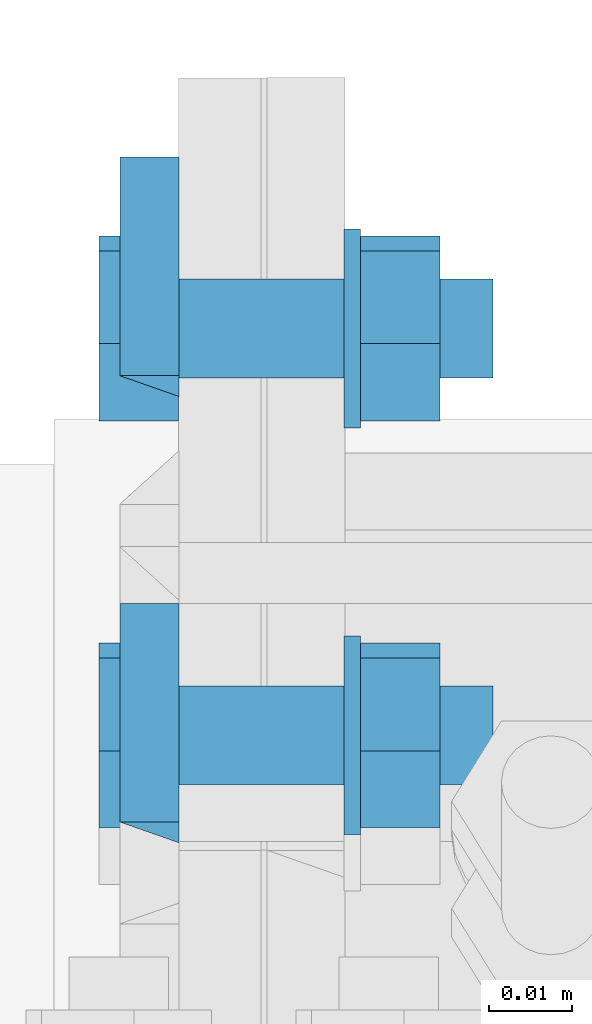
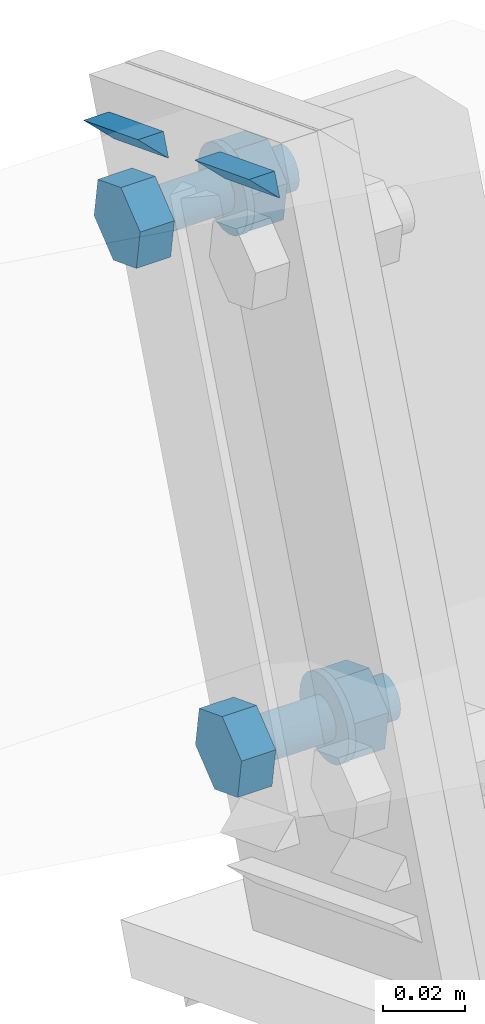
# One storey, part 72 of 72: 8 mechanical fasteners, 4 fasteners.
"""IFC4 building model written with IfcOpenShell, lengths in metres."""

from ifc_helpers import new_model, si_unit, frame, origin_with_axes, place, context, project, spatial, polyline, outline, extrude, type_object, element, save


model = new_model("IFC4")

# Units and contexts
model_context = context("Model", 3, precision=1e-05, world=origin_with_axes())
ifc_project = project(units=[si_unit("LENGTHUNIT", "METRE"), si_unit("AREAUNIT", "SQUARE_METRE"), si_unit("VOLUMEUNIT", "CUBIC_METRE"), si_unit("MASSUNIT", "GRAM", prefix="KILO"), si_unit("TIMEUNIT", "SECOND"), si_unit("PLANEANGLEUNIT", "RADIAN"), si_unit("SOLIDANGLEUNIT", "STERADIAN"), si_unit("THERMODYNAMICTEMPERATUREUNIT", "DEGREE_CELSIUS")], contexts=[model_context])

# Site, building, storey
placement_1 = place(None, origin_with_axes())
site = spatial("IfcSite", under=ifc_project, at=placement_1, Name="Italia", CompositionType="ELEMENT")
building = spatial("IfcBuilding", under=site, at=placement_1, Name="Uffici", CompositionType="ELEMENT")
storey = spatial("IfcBuildingStorey", under=building, at=placement_1, Name="Storey 0", CompositionType="ELEMENT", Elevation=0.0)

# Fasteners
fastener_type_1 = type_object("IfcFastenerType", Name="Collegamento 0210_0209", PredefinedType="WELD")
placement_2 = place(placement_1, origin_with_axes())
fastener_1_placement = place(placement_2, origin_with_axes())
element("IfcFastener", 1, at=fastener_1_placement, inside=storey, type_object=fastener_type_1, Name="Collegamento 0210_0209", context=model_context, shape_type="SweptSolid", body=[
    extrude(outline(polyline([(0.0, 0.0), (-0.00717354, 0.00695801), (0.0, 0.00695801), (0.0, 0.0)])), frame((13.8951, 4.93457, 5.31007), z_axis=(0.0, -0.932385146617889, 0.361466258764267), x_axis=(1.0, 0.0, 0.0)), (0.0, 0.0, 1.0), 0.0283003),
])
fastener_type_2 = type_object("IfcFastenerType", Name="Collegamento 0210_0209", PredefinedType="WELD")
fastener_2_placement = place(placement_2, origin_with_axes())
element("IfcFastener", 2, at=fastener_2_placement, inside=storey, type_object=fastener_type_2, Name="Collegamento 0210_0209", context=model_context, shape_type="SweptSolid", body=[
    extrude(outline(polyline([(0.0, 0.0), (-0.00717354, 0.00695801), (0.0, 0.00695801), (0.0, 0.0)])), frame((13.8951, 4.88068, 5.33097), z_axis=(0.0, -0.932388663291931, 0.361457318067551), x_axis=(1.0, 0.0, 0.0)), (0.0, 0.0, 1.0), 0.0282996),
])
fastener_type_3 = type_object("IfcFastenerType", Name="Collegamento 0210_0209", PredefinedType="WELD")
fastener_3_placement = place(placement_2, origin_with_axes())
element("IfcFastener", 3, at=fastener_3_placement, inside=storey, type_object=fastener_type_3, Name="Collegamento 0210_0209", context=model_context, shape_type="SweptSolid", body=[
    extrude(outline(polyline([(0.0, 0.0), (-0.00717354, 0.00695801), (0.0, 0.00695801), (0.0, 0.0)])), frame((13.8951, 4.93457, 5.31007), z_axis=(0.0, -0.932385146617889, 0.361466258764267), x_axis=(1.0, 0.0, 0.0)), (0.0, 0.0, 1.0), 0.0283003),
])
fastener_type_4 = type_object("IfcFastenerType", Name="Collegamento 0210_0209", PredefinedType="WELD")
fastener_4_placement = place(placement_2, origin_with_axes())
element("IfcFastener", 4, at=fastener_4_placement, inside=storey, type_object=fastener_type_4, Name="Collegamento 0210_0209", context=model_context, shape_type="SweptSolid", body=[
    extrude(outline(polyline([(0.0, 0.0), (-0.00717354, 0.00695801), (0.0, 0.00695801), (0.0, 0.0)])), frame((13.8951, 4.88068, 5.33097), z_axis=(0.0, -0.932388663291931, 0.361457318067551), x_axis=(1.0, 0.0, 0.0)), (0.0, 0.0, 1.0), 0.0282996),
])

# Mechanical fasteners
mechanical_fastener_type_1 = type_object("IfcMechanicalFastenerType", Name="Collegamento 0210_0209", PredefinedType="BOLT")
mechanical_fastener_1_placement = place(placement_2, origin_with_axes())
element("IfcMechanicalFastener", 5, at=mechanical_fastener_1_placement, inside=storey, type_object=mechanical_fastener_type_1, Name="Collegamento 0210_0209", NominalDiameter=0.0119998, context=model_context, shape_type="SweptSolid", body=[
    extrude(outline(polyline([(0.0, 0.0), (-0.0111885, -0.00433731), (-0.0205393, 0.00318336), (-0.0187016, 0.0150418), (-0.00751305, 0.0193791), (0.00183773, 0.0118585), (0.0, 0.0)])), frame((13.895, 4.8579, 5.16499), z_axis=(-1.0, 0.0, 0.0), x_axis=(0.0, -1.0, 0.0)), (0.0, 0.0, 1.0), 0.00959969),
])
mechanical_fastener_type_2 = type_object("IfcMechanicalFastenerType", Name="Collegamento 0210_0209", PredefinedType="BOLT")
mechanical_fastener_2_placement = place(placement_2, origin_with_axes())
element("IfcMechanicalFastener", 6, at=mechanical_fastener_2_placement, inside=storey, type_object=mechanical_fastener_type_2, Name="Collegamento 0210_0209", NominalDiameter=0.012, context=model_context, shape_type="SweptSolid", body=[
    extrude(outline(polyline([(0.0, 0.0), (-0.000204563, -0.00155306), (-0.000803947, -0.00299978), (-0.00175762, -0.00424242), (-0.00300026, -0.00519609), (-0.00444698, -0.00579548), (-0.00600004, -0.00600004), (-0.0075531, -0.00579548), (-0.00899982, -0.00519609), (-0.0102425, -0.00424242), (-0.0111961, -0.00299978), (-0.0117955, -0.00155306), (-0.0120001, 0.0), (-0.0117955, 0.00155306), (-0.0111961, 0.00299978), (-0.0102425, 0.00424242), (-0.00899982, 0.00519609), (-0.0075531, 0.00579548), (-0.00600004, 0.00600004), (-0.00444698, 0.00579548), (-0.00300026, 0.00519609), (-0.00175762, 0.00424242), (-0.000803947, 0.00299978), (-0.000204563, 0.00155306), (0.0, 0.0)])), frame((13.933, 4.86125, 5.17251), z_axis=(-1.0, 0.0, 0.0), x_axis=(0.0, -1.0, 0.0)), (0.0, 0.0, 1.0), 0.0380001),
])
mechanical_fastener_type_3 = type_object("IfcMechanicalFastenerType", Name="Collegamento 0210_0209", PredefinedType="BOLT")
mechanical_fastener_3_placement = place(placement_2, origin_with_axes())
element("IfcMechanicalFastener", 7, at=mechanical_fastener_3_placement, inside=storey, type_object=mechanical_fastener_type_3, Name="Collegamento 0210_0209", NominalDiameter=0.0119998, context=model_context, shape_type="SweptSolid", body=[
    extrude(outline(polyline([(0.0, 0.0), (-0.0111885, -0.00433731), (-0.0205393, 0.00318336), (-0.0187016, 0.0150418), (-0.00751305, 0.0193791), (0.00183773, 0.0118585), (0.0, 0.0)])), frame((13.9266, 4.8579, 5.16499), z_axis=(-1.0, 0.0, 0.0), x_axis=(0.0, -1.0, 0.0)), (0.0, 0.0, 1.0), 0.00959969),
])
mechanical_fastener_type_4 = type_object("IfcMechanicalFastenerType", Name="Collegamento 0210_0209", PredefinedType="BOLT")
mechanical_fastener_4_placement = place(placement_2, origin_with_axes())
element("IfcMechanicalFastener", 8, at=mechanical_fastener_4_placement, inside=storey, type_object=mechanical_fastener_type_4, Name="Collegamento 0210_0209", NominalDiameter=0.024, context=model_context, shape_type="SweptSolid", body=[
    extrude(outline(polyline([(0.0, 0.0), (-0.000409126, -0.00310564), (-0.00160789, -0.00600004), (-0.00351477, -0.00848532), (-0.00600004, -0.0103922), (-0.00889444, -0.011591), (-0.0120001, -0.0120001), (-0.0151057, -0.011591), (-0.0180001, -0.0103922), (-0.0204854, -0.00848532), (-0.0223923, -0.00600004), (-0.023591, -0.00310564), (-0.0240002, 0.0), (-0.023591, 0.00310564), (-0.0223923, 0.00600004), (-0.0204854, 0.00848532), (-0.0180001, 0.0103922), (-0.0151057, 0.011591), (-0.0120001, 0.0120001), (-0.00889444, 0.011591), (-0.00600004, 0.0103922), (-0.00351477, 0.00848532), (-0.00160789, 0.00600004), (-0.000409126, 0.00310564), (0.0, 0.0)])), frame((13.917, 4.85525, 5.17251), z_axis=(-1.0, 0.0, 0.0), x_axis=(0.0, -1.0, 0.0)), (0.0, 0.0, 1.0), 0.00199986),
])
mechanical_fastener_type_5 = type_object("IfcMechanicalFastenerType", Name="Collegamento 0210_0209", PredefinedType="BOLT")
mechanical_fastener_5_placement = place(placement_2, origin_with_axes())
element("IfcMechanicalFastener", 9, at=mechanical_fastener_5_placement, inside=storey, type_object=mechanical_fastener_type_5, Name="Collegamento 0210_0209", NominalDiameter=0.0119998, context=model_context, shape_type="SweptSolid", body=[
    extrude(outline(polyline([(0.0, 0.0), (-0.0111885, -0.00433779), (-0.0205393, 0.00318336), (-0.0187011, 0.0150418), (-0.00751257, 0.0193791), (0.00183821, 0.0118585), (0.0, 0.0)])), frame((13.895, 4.90705, 5.2918), z_axis=(-1.0, 0.0, 0.0), x_axis=(0.0, -1.0, 0.0)), (0.0, 0.0, 1.0), 0.00959969),
])
mechanical_fastener_type_6 = type_object("IfcMechanicalFastenerType", Name="Collegamento 0210_0209", PredefinedType="BOLT")
mechanical_fastener_6_placement = place(placement_2, origin_with_axes())
element("IfcMechanicalFastener", 10, at=mechanical_fastener_6_placement, inside=storey, type_object=mechanical_fastener_type_6, Name="Collegamento 0210_0209", NominalDiameter=0.012, context=model_context, shape_type="SweptSolid", body=[
    extrude(outline(polyline([(0.0, 0.0), (-0.000204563, -0.00155306), (-0.000803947, -0.00299978), (-0.00175762, -0.00424242), (-0.00300026, -0.00519609), (-0.00444698, -0.00579548), (-0.00600004, -0.00600004), (-0.0075531, -0.00579548), (-0.00899982, -0.00519609), (-0.0102425, -0.00424242), (-0.0111961, -0.00299978), (-0.0117955, -0.00155306), (-0.0120001, 0.0), (-0.0117955, 0.00155306), (-0.0111961, 0.00299978), (-0.0102425, 0.00424242), (-0.00899982, 0.00519609), (-0.0075531, 0.00579548), (-0.00600004, 0.00600004), (-0.00444698, 0.00579548), (-0.00300026, 0.00519609), (-0.00175762, 0.00424242), (-0.000803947, 0.00299978), (-0.000204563, 0.00155306), (0.0, 0.0)])), frame((13.933, 4.9104, 5.29932), z_axis=(-1.0, 0.0, 0.0), x_axis=(0.0, -1.0, 0.0)), (0.0, 0.0, 1.0), 0.0380001),
])
mechanical_fastener_type_7 = type_object("IfcMechanicalFastenerType", Name="Collegamento 0210_0209", PredefinedType="BOLT")
mechanical_fastener_7_placement = place(placement_2, origin_with_axes())
element("IfcMechanicalFastener", 11, at=mechanical_fastener_7_placement, inside=storey, type_object=mechanical_fastener_type_7, Name="Collegamento 0210_0209", NominalDiameter=0.0119998, context=model_context, shape_type="SweptSolid", body=[
    extrude(outline(polyline([(0.0, 0.0), (-0.0111885, -0.00433779), (-0.0205393, 0.00318336), (-0.0187011, 0.0150418), (-0.00751257, 0.0193791), (0.00183821, 0.0118585), (0.0, 0.0)])), frame((13.9266, 4.90705, 5.2918), z_axis=(-1.0, 0.0, 0.0), x_axis=(0.0, -1.0, 0.0)), (0.0, 0.0, 1.0), 0.00959969),
])
mechanical_fastener_type_8 = type_object("IfcMechanicalFastenerType", Name="Collegamento 0210_0209", PredefinedType="BOLT")
mechanical_fastener_8_placement = place(placement_2, origin_with_axes())
element("IfcMechanicalFastener", 12, at=mechanical_fastener_8_placement, inside=storey, type_object=mechanical_fastener_type_8, Name="Collegamento 0210_0209", NominalDiameter=0.024, context=model_context, shape_type="SweptSolid", body=[
    extrude(outline(polyline([(0.0, 0.0), (-0.000409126, -0.00310564), (-0.00160789, -0.00600004), (-0.00351477, -0.00848532), (-0.00600004, -0.0103922), (-0.00889444, -0.011591), (-0.0120001, -0.0120001), (-0.0151057, -0.011591), (-0.0180001, -0.0103922), (-0.0204854, -0.00848532), (-0.0223923, -0.00600004), (-0.023591, -0.00310564), (-0.0240002, 0.0), (-0.023591, 0.00310564), (-0.0223923, 0.00600004), (-0.0204854, 0.00848532), (-0.0180001, 0.0103922), (-0.0151057, 0.011591), (-0.0120001, 0.0120001), (-0.00889444, 0.011591), (-0.00600004, 0.0103922), (-0.00351477, 0.00848532), (-0.00160789, 0.00600004), (-0.000409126, 0.00310564), (0.0, 0.0)])), frame((13.917, 4.9044, 5.29932), z_axis=(-1.0, 0.0, 0.0), x_axis=(0.0, -1.0, 0.0)), (0.0, 0.0, 1.0), 0.00199986),
])

save(model, "model.ifc")
